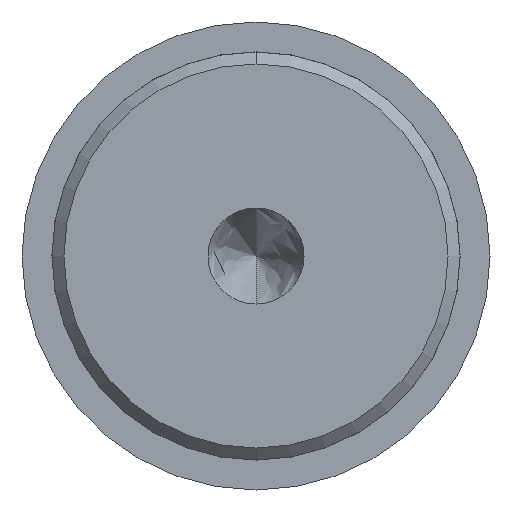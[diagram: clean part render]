
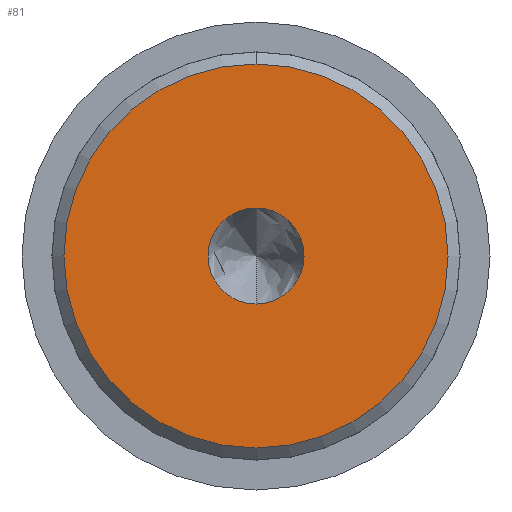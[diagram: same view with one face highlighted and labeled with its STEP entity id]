
A CAD part, left-side view. The second image highlights one B-rep face of the part: STEP entity #81.
In plain terms, the highlighted free-form (B-spline) face has degree [1, 1] with [2, 2] control points.
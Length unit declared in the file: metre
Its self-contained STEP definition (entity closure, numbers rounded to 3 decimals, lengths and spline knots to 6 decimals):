
#81 = ADVANCED_FACE( '', ( #116, #117 ), #118, .T. );
#116 = FACE_BOUND( '', #186, .T. );
#117 = FACE_OUTER_BOUND( '', #187, .T. );
#118 = B_SPLINE_SURFACE_WITH_KNOTS( '', 1, 1, ( ( #188, #189 ), ( #190, #191 ) ), .UNSPECIFIED., .F., .F., .F., ( 2, 2 ), ( 2, 2 ), ( 0., 1. ), ( 0., 1. ), .UNSPECIFIED. );
#186 = EDGE_LOOP( '', ( #345, #346 ) );
#187 = EDGE_LOOP( '', ( #347, #348 ) );
#188 = CARTESIAN_POINT( '', ( -0.019, -0.016192, -0.016192 ) );
#189 = CARTESIAN_POINT( '', ( -0.019, 0.016192, -0.016192 ) );
#190 = CARTESIAN_POINT( '', ( -0.019, -0.016192, 0.016192 ) );
#191 = CARTESIAN_POINT( '', ( -0.019, 0.016192, 0.016192 ) );
#345 = ORIENTED_EDGE( '', *, *, #522, .T. );
#346 = ORIENTED_EDGE( '', *, *, #520, .T. );
#347 = ORIENTED_EDGE( '', *, *, #523, .T. );
#348 = ORIENTED_EDGE( '', *, *, #524, .T. );
#520 = EDGE_CURVE( '', #582, #580, #583, .T. );
#522 = EDGE_CURVE( '', #580, #582, #585, .T. );
#523 = EDGE_CURVE( '', #586, #587, #588, .F. );
#524 = EDGE_CURVE( '', #587, #586, #589, .F. );
#580 = VERTEX_POINT( '', #673 );
#582 = VERTEX_POINT( '', #676 );
#583 = CIRCLE( '', #677, 0.004 );
#585 = CIRCLE( '', #680, 0.004 );
#586 = VERTEX_POINT( '', #681 );
#587 = VERTEX_POINT( '', #682 );
#588 = CIRCLE( '', #683, 0.016 );
#589 = CIRCLE( '', #684, 0.016 );
#673 = CARTESIAN_POINT( '', ( -0.019, 0., -0.004 ) );
#676 = CARTESIAN_POINT( '', ( -0.019, 0., 0.004 ) );
#677 = AXIS2_PLACEMENT_3D( '', #806, #807, #808 );
#680 = AXIS2_PLACEMENT_3D( '', #810, #811, #812 );
#681 = CARTESIAN_POINT( '', ( -0.019, 0., 0.016 ) );
#682 = CARTESIAN_POINT( '', ( -0.019, 0., -0.016 ) );
#683 = AXIS2_PLACEMENT_3D( '', #813, #814, #815 );
#684 = AXIS2_PLACEMENT_3D( '', #816, #817, #818 );
#806 = CARTESIAN_POINT( '', ( -0.019, 0., 0. ) );
#807 = DIRECTION( '', ( 1., 0., 0. ) );
#808 = DIRECTION( '', ( 0., 0., -1. ) );
#810 = CARTESIAN_POINT( '', ( -0.019, 0., 0. ) );
#811 = DIRECTION( '', ( 1., 0., 0. ) );
#812 = DIRECTION( '', ( 0., 0., -1. ) );
#813 = CARTESIAN_POINT( '', ( -0.019, 0., 0. ) );
#814 = DIRECTION( '', ( 1., 0., 0. ) );
#815 = DIRECTION( '', ( 0., 0., -1. ) );
#816 = CARTESIAN_POINT( '', ( -0.019, 0., 0. ) );
#817 = DIRECTION( '', ( 1., 0., 0. ) );
#818 = DIRECTION( '', ( 0., 0., -1. ) );
